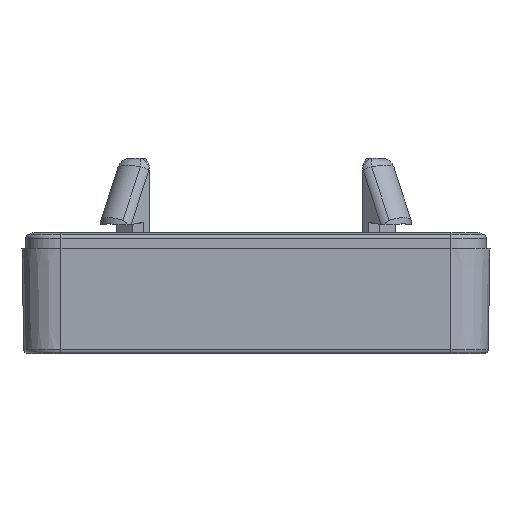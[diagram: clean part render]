
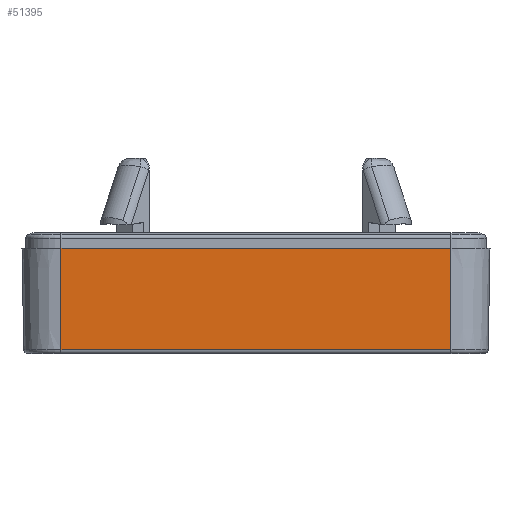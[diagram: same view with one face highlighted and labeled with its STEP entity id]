
A CAD part, left-side view. The second image highlights one B-rep face of the part: STEP entity #51395.
In plain terms, the highlighted planar face has unit normal (-1, 0, -0.018).
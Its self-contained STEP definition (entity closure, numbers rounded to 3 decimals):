
#2768=PLANE('',#55510);
#5921=LINE('',#93231,#10327);
#5924=LINE('',#93242,#10330);
#5925=LINE('',#93244,#10331);
#5926=LINE('',#93245,#10332);
#10327=VECTOR('',#65640,10.);
#10330=VECTOR('',#65655,10.);
#10331=VECTOR('',#65656,10.);
#10332=VECTOR('',#65657,10.);
#14587=FACE_OUTER_BOUND('',#17929,.T.);
#17929=EDGE_LOOP('',(#42839,#42840,#42841,#42842));
#24538=VERTEX_POINT('',#93223);
#24540=VERTEX_POINT('',#93229);
#24542=VERTEX_POINT('',#93241);
#24543=VERTEX_POINT('',#93243);
#31037=EDGE_CURVE('',#24538,#24540,#5921,.T.);
#31042=EDGE_CURVE('',#24542,#24538,#5924,.T.);
#31043=EDGE_CURVE('',#24543,#24542,#5925,.T.);
#31044=EDGE_CURVE('',#24543,#24540,#5926,.T.);
#42839=ORIENTED_EDGE('',*,*,#31037,.F.);
#42840=ORIENTED_EDGE('',*,*,#31042,.F.);
#42841=ORIENTED_EDGE('',*,*,#31043,.F.);
#42842=ORIENTED_EDGE('',*,*,#31044,.T.);
#51395=ADVANCED_FACE('',(#14587),#2768,.F.);
#55510=AXIS2_PLACEMENT_3D('',#93240,#65653,#65654);
#65640=DIRECTION('',(0.,1.,0.));
#65653=DIRECTION('center_axis',(1.,0.,
0.017));
#65654=DIRECTION('ref_axis',(0.017,0.,-1.));
#65655=DIRECTION('',(0.017,0.,-1.));
#65656=DIRECTION('',(0.,-1.,0.));
#65657=DIRECTION('',(0.017,0.,-1.));
#93223=CARTESIAN_POINT('',(-73.773,-25.,-13.009));
#93229=CARTESIAN_POINT('',(-73.773,25.,-13.009));
#93231=CARTESIAN_POINT('',(-73.773,19.916,-13.009));
#93240=CARTESIAN_POINT('Origin',(-74.,25.,0.));
#93241=CARTESIAN_POINT('',(-74.,-25.,0.));
#93242=CARTESIAN_POINT('',(-74.,-25.,0.));
#93243=CARTESIAN_POINT('',(-74.,25.,0.));
#93244=CARTESIAN_POINT('',(-74.,0.,0.));
#93245=CARTESIAN_POINT('',(-74.,25.,0.));
